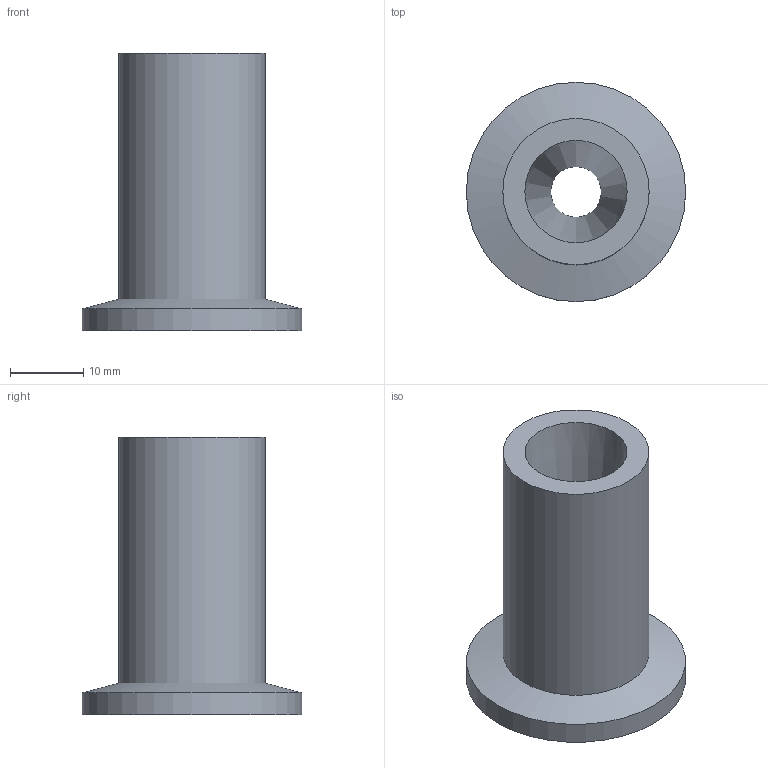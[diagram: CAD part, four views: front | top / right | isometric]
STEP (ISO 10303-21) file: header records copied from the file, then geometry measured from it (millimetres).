
FILE_DESCRIPTION( ( 'Unknown' ), '1' );
FILE_NAME( 'X:/Daten ( aktueller Bestand )/Projekte und Zeichnungen/Solid Edge/2 Bauteile KF/VA/KF mit Hülsenschliff VA/1711.stp', 'Unknown', ( 'Unknown' ), ( 'Unknown' ), 'XStep 1.0', 'Unknown', ' ' );
FILE_SCHEMA( ( 'automotive_design' ) );
Length unit declared in the file: millimetre
Products named in the file (1): 1
Bounding box: 30 x 30 x 38 mm (x, y, z)
Volume: 9618.9 mm3; surface area: 4940.3 mm2
Topology: 1 solids, 1 shells, 8 faces, 13 edges, 8 vertices
Faces by surface type: plane 3, cylinder 3, cone 2
Full cylindrical faces by diameter (mm): 17.2 x1, 20 x1, 30 x1
Entity records: 248 total; most frequent: DIRECTION 34, CARTESIAN_POINT 25, AXIS2_PLACEMENT_3D 17, EDGE_LOOP 16, ORIENTED_EDGE 16, FACE_OUTER_BOUND 11, STYLED_ITEM 8, PRESENTATION_STYLE_ASSIGNMENT 8
